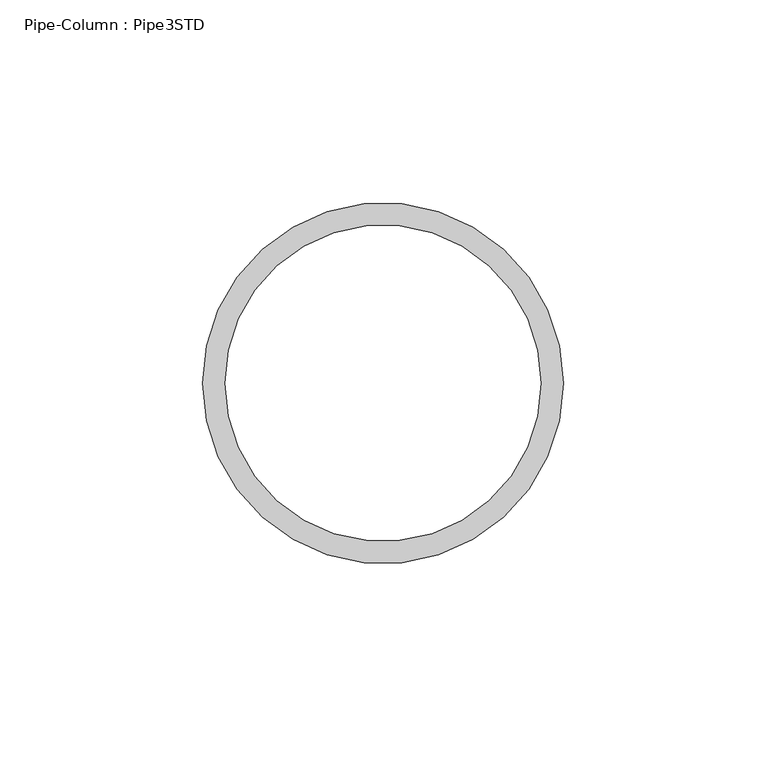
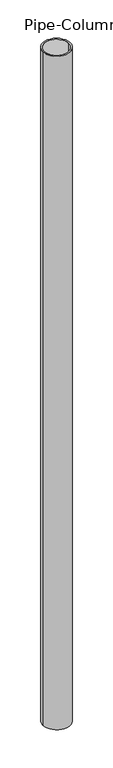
"""IFC4 building model written with IfcOpenShell, lengths in millimetres: column geometry, Pipe-Column : Pipe3STD."""

from ifc_helpers import new_model, si_unit, point, frame, origin, origin_2d, place, context, project, spatial, circle_curve, trimmed, segment, composite_curve, outline, extrude, source, transform, mapped, element, save


def pipe_column_pipe3std_a92b58e9(model_context):
    return source(origin(), model_context, "Body", "SweptSolid", [
        extrude(outline(composite_curve([segment(trimmed(circle_curve(origin_2d(), 44.45), [point((-44.45, 0.0))], [point((44.45, 0.0))], False, "CARTESIAN"), True, "CONTINUOUS"), segment(trimmed(circle_curve(origin_2d(), 44.45), [point((44.45, 0.0))], [point((-44.45, 0.0))], False, "CARTESIAN"), True, "CONTINUOUS")], self_intersect=False), holes=[composite_curve([segment(trimmed(circle_curve(origin_2d(), 38.9636), [point((-38.9636, 0.0))], [point((38.9636, 0.0))], True, "CARTESIAN"), True, "CONTINUOUS"), segment(trimmed(circle_curve(origin_2d(), 38.9636), [point((38.9636, 0.0))], [point((-38.9636, 0.0))], True, "CARTESIAN"), True, "CONTINUOUS")], self_intersect=False)]), frame((0.0, 0.0, -1657.35), z_axis=(0.0, 0.0, 1.0), x_axis=(1.0, 0.0, 0.0)), (0.0, 0.0, 1.0), 2313.1859375),
    ])


if __name__ == "__main__":
    model = new_model("IFC4")
    model_context = context("Model", 3, world=origin())
    ifc_project = project(units=[si_unit("LENGTHUNIT", "METRE", prefix="MILLI")], contexts=[model_context])
    site = spatial("IfcSite", under=ifc_project)
    building = spatial("IfcBuilding", under=site)
    placement = place(None, origin())
    pipe_column_pipe3std_shape = pipe_column_pipe3std_a92b58e9(model_context)
    element("IfcColumn", 1, ObjectType="Pipe-Column : Pipe3STD", at=placement, inside=building, context=model_context, shape_type="MappedRepresentation", body=[
        mapped(pipe_column_pipe3std_shape, transform((0.0, 0.0, 0.0), x_axis=(1.0, 0.0, 0.0), y_axis=(0.0, 1.0, 0.0), z_axis=(0.0, 0.0, 1.0))),
    ])
    save(model, "model.ifc")
